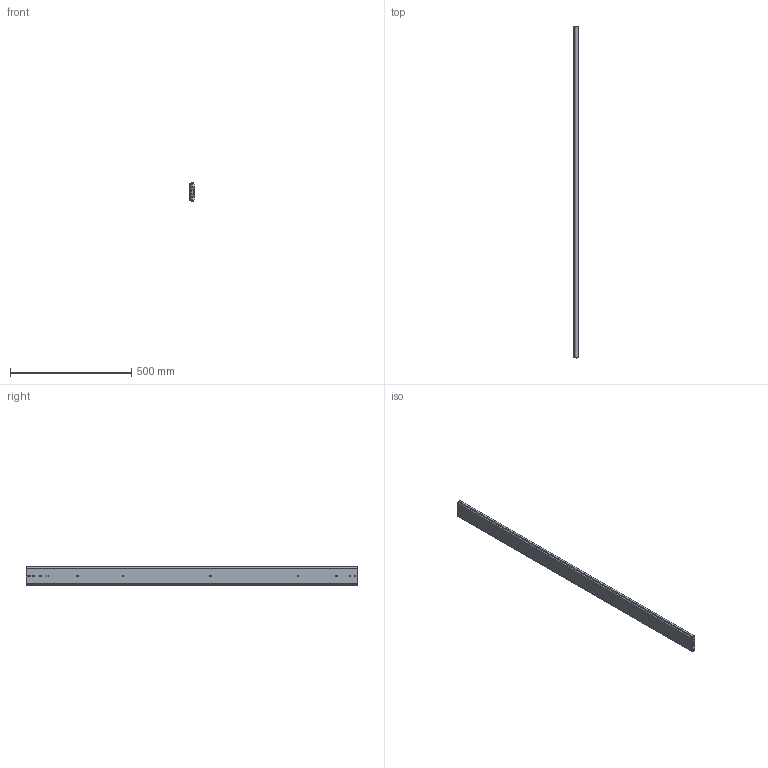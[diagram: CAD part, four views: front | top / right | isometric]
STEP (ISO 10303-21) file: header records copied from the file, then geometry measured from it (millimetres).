
FILE_DESCRIPTION(/* description */ ('Unknown'),/* implementation_level */ '2;1');
FILE_NAME(/* name */ '76J01-54 close',/* time_stamp */ '2024-07-30T10:57:38+08:00',/* author */ ('Unknown'),/* organization */ ('Unknown'),/* preprocessor_version */ 'ST-DEVELOPER v18.104',/* originating_system */ 'Solid Edge',/* authorisation */ 'Unknown');
FILE_SCHEMA (('AUTOMOTIVE_DESIGN {1 0 10303 214 3 1 1}'));
Length unit declared in the file: millimetre
Products named in the file (4): 76J01-54 close; 76J01 54 inch ¤ºditional)_Taiwan.950; 76J01 54 吋s; 76J01 54 吋
Assembly tree (3 placements, depth 2):
  76J01-54 close
    76J01 54 inch ¤ºditional)_Taiwan.950
    76J01 54 吋s
    76J01 54 吋
Bounding box: 19.3 x 1371.6 x 76.76 mm (x, y, z)
Volume: 1083733.5 mm3; surface area: 673792.2 mm2
Topology: 3 solids, 3 shells, 196 faces, 606 edges, 410 vertices
Faces by surface type: plane 104, cylinder 92
Full cylindrical faces by diameter (mm): 5.2 x16, 7.1 x2
Entity records: 7179 total; most frequent: CARTESIAN_POINT 1168, DIRECTION 1152, ORIENTED_EDGE 1140, EDGE_CURVE 570, VERTEX_POINT 392, LINE 384, VECTOR 384, AXIS2_PLACEMENT_3D 384
